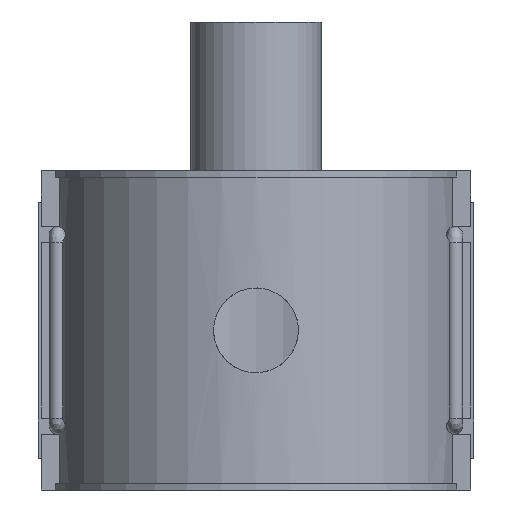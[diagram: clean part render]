
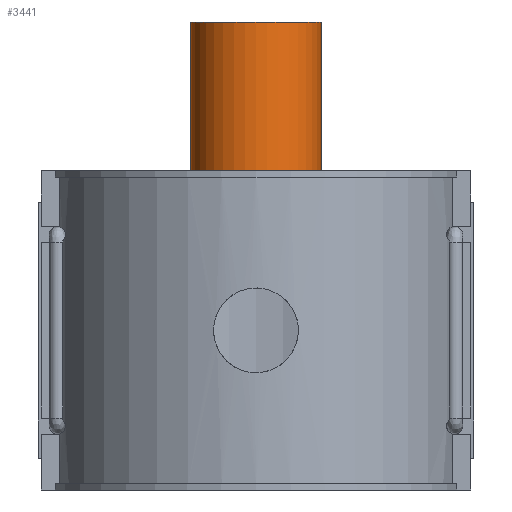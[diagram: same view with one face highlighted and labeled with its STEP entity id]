
A CAD part, front view. The second image highlights one B-rep face of the part: STEP entity #3441.
In plain terms, the highlighted cylindrical face has radius 24.05 mm (diameter 48.1 mm), a full revolution.
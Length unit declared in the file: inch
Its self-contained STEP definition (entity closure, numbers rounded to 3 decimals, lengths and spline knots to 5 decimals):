
#317=CIRCLE('',#3780,0.94685);
#318=CIRCLE('',#3781,0.94685);
#319=CIRCLE('',#3782,0.94685);
#320=CIRCLE('',#3783,0.94685);
#521=FACE_OUTER_BOUND('',#742,.T.);
#742=EDGE_LOOP('',(#3176,#3177,#3178,#3179,#3180,#3181));
#1047=LINE('',#7063,#1348);
#1348=VECTOR('',#4722,0.94685);
#1712=VERTEX_POINT('',#7058);
#1713=VERTEX_POINT('',#7059);
#1714=VERTEX_POINT('',#7062);
#1715=VERTEX_POINT('',#7064);
#2202=EDGE_CURVE('',#1712,#1713,#317,.T.);
#2203=EDGE_CURVE('',#1713,#1712,#318,.T.);
#2204=EDGE_CURVE('',#1713,#1714,#1047,.T.);
#2205=EDGE_CURVE('',#1714,#1715,#319,.T.);
#2206=EDGE_CURVE('',#1715,#1714,#320,.T.);
#3176=ORIENTED_EDGE('',*,*,#2202,.F.);
#3177=ORIENTED_EDGE('',*,*,#2203,.F.);
#3178=ORIENTED_EDGE('',*,*,#2204,.T.);
#3179=ORIENTED_EDGE('',*,*,#2205,.T.);
#3180=ORIENTED_EDGE('',*,*,#2206,.T.);
#3181=ORIENTED_EDGE('',*,*,#2204,.F.);
#3248=CYLINDRICAL_SURFACE('',#3779,0.94685);
#3441=ADVANCED_FACE('',(#521),#3248,.T.);
#3779=AXIS2_PLACEMENT_3D('',#7057,#4716,#4717);
#3780=AXIS2_PLACEMENT_3D('',#7060,#4718,#4719);
#3781=AXIS2_PLACEMENT_3D('',#7061,#4720,#4721);
#3782=AXIS2_PLACEMENT_3D('',#7065,#4723,#4724);
#3783=AXIS2_PLACEMENT_3D('',#7066,#4725,#4726);
#4716=DIRECTION('center_axis',(0.,0.,1.));
#4717=DIRECTION('ref_axis',(0.,-1.,0.));
#4718=DIRECTION('center_axis',(0.,0.,1.));
#4719=DIRECTION('ref_axis',(1.,0.,0.));
#4720=DIRECTION('center_axis',(0.,0.,1.));
#4721=DIRECTION('ref_axis',(1.,0.,0.));
#4722=DIRECTION('',(0.,0.,-1.));
#4723=DIRECTION('center_axis',(0.,0.,1.));
#4724=DIRECTION('ref_axis',(1.,0.,0.));
#4725=DIRECTION('center_axis',(0.,0.,1.));
#4726=DIRECTION('ref_axis',(1.,0.,0.));
#7057=CARTESIAN_POINT('Origin',(0.,4.80606,2.245));
#7058=CARTESIAN_POINT('',(0.,3.85921,4.49));
#7059=CARTESIAN_POINT('',(0.,5.75291,4.49));
#7060=CARTESIAN_POINT('Origin',(0.,4.80606,4.49));
#7061=CARTESIAN_POINT('Origin',(0.,4.80606,4.49));
#7062=CARTESIAN_POINT('',(0.,5.75291,0.));
#7063=CARTESIAN_POINT('',(0.,5.75291,2.245));
#7064=CARTESIAN_POINT('',(0.,3.85921,0.));
#7065=CARTESIAN_POINT('Origin',(0.,4.80606,0.));
#7066=CARTESIAN_POINT('Origin',(0.,4.80606,0.));
